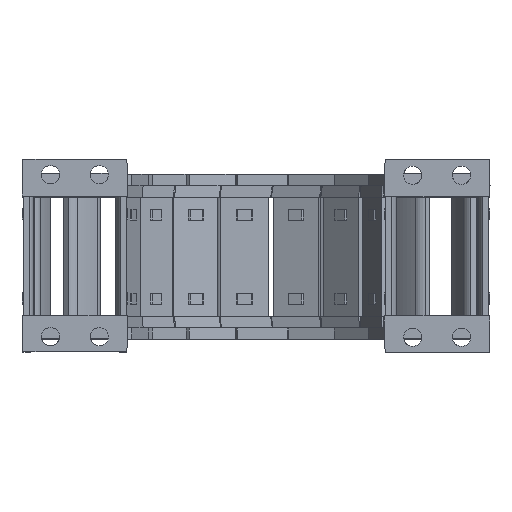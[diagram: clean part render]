
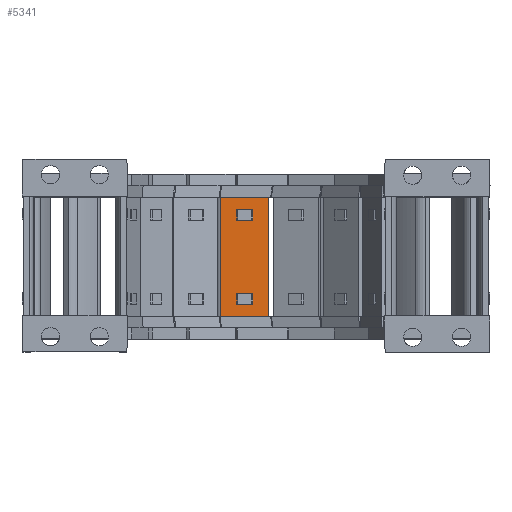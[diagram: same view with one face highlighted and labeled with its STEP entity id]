
A CAD part, top view. The second image highlights one B-rep face of the part: STEP entity #5341.
In plain terms, the highlighted planar face has unit normal (0.035, 0, 0.999).
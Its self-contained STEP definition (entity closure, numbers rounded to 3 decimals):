
#293=FACE_BOUND('',#15295,.T.);
#294=FACE_BOUND('',#15296,.T.);
#295=FACE_BOUND('',#15297,.T.);
#5341=ADVANCED_FACE('',(#293,#294,#295),#8414,.F.);
#8414=PLANE('',#76721);
#15295=EDGE_LOOP('',(#41093,#41094,#41095,#41096));
#15296=EDGE_LOOP('',(#41097,#41098,#41099,#41100));
#15297=EDGE_LOOP('',(#41101,#41102,#41103,#41104));
#21407=LINE('',#117715,#27585);
#21409=LINE('',#117719,#27587);
#21411=LINE('',#117723,#27589);
#21412=LINE('',#117725,#27590);
#21419=LINE('',#117740,#27597);
#21421=LINE('',#117744,#27599);
#21423=LINE('',#117748,#27601);
#21424=LINE('',#117750,#27602);
#21425=LINE('',#117752,#27603);
#21426=LINE('',#117755,#27604);
#21427=LINE('',#117757,#27605);
#21428=LINE('',#117759,#27606);
#27585=VECTOR('',#90400,1.);
#27587=VECTOR('',#90404,1.);
#27589=VECTOR('',#90408,1.);
#27590=VECTOR('',#90411,1.);
#27597=VECTOR('',#90422,1.);
#27599=VECTOR('',#90426,1.);
#27601=VECTOR('',#90430,1.);
#27602=VECTOR('',#90433,1.);
#27603=VECTOR('',#90436,1.);
#27604=VECTOR('',#90437,1.);
#27605=VECTOR('',#90438,1.);
#27606=VECTOR('',#90439,1.);
#41093=ORIENTED_EDGE('',*,*,#65015,.F.);
#41094=ORIENTED_EDGE('',*,*,#65013,.F.);
#41095=ORIENTED_EDGE('',*,*,#65011,.T.);
#41096=ORIENTED_EDGE('',*,*,#65016,.T.);
#41097=ORIENTED_EDGE('',*,*,#65027,.F.);
#41098=ORIENTED_EDGE('',*,*,#65025,.T.);
#41099=ORIENTED_EDGE('',*,*,#65023,.T.);
#41100=ORIENTED_EDGE('',*,*,#65028,.F.);
#41101=ORIENTED_EDGE('',*,*,#65029,.F.);
#41102=ORIENTED_EDGE('',*,*,#65030,.F.);
#41103=ORIENTED_EDGE('',*,*,#65031,.T.);
#41104=ORIENTED_EDGE('',*,*,#65032,.T.);
#56103=VERTEX_POINT('',#117712);
#56104=VERTEX_POINT('',#117714);
#56105=VERTEX_POINT('',#117718);
#56106=VERTEX_POINT('',#117722);
#56111=VERTEX_POINT('',#117737);
#56112=VERTEX_POINT('',#117739);
#56113=VERTEX_POINT('',#117743);
#56114=VERTEX_POINT('',#117747);
#56115=VERTEX_POINT('',#117753);
#56116=VERTEX_POINT('',#117754);
#56117=VERTEX_POINT('',#117756);
#56118=VERTEX_POINT('',#117758);
#65011=EDGE_CURVE('',#56103,#56104,#21407,.T.);
#65013=EDGE_CURVE('',#56103,#56105,#21409,.T.);
#65015=EDGE_CURVE('',#56105,#56106,#21411,.T.);
#65016=EDGE_CURVE('',#56104,#56106,#21412,.T.);
#65023=EDGE_CURVE('',#56111,#56112,#21419,.T.);
#65025=EDGE_CURVE('',#56113,#56111,#21421,.T.);
#65027=EDGE_CURVE('',#56113,#56114,#21423,.T.);
#65028=EDGE_CURVE('',#56114,#56112,#21424,.T.);
#65029=EDGE_CURVE('',#56115,#56116,#21425,.T.);
#65030=EDGE_CURVE('',#56117,#56115,#21426,.T.);
#65031=EDGE_CURVE('',#56117,#56118,#21427,.T.);
#65032=EDGE_CURVE('',#56118,#56116,#21428,.T.);
#76721=AXIS2_PLACEMENT_3D('',#117760,#90440,#90441);
#90400=DIRECTION('',(0.,1.,0.));
#90404=DIRECTION('',(0.999,0.,-0.035));
#90408=DIRECTION('',(0.,1.,0.));
#90411=DIRECTION('',(0.999,0.,-0.035));
#90422=DIRECTION('',(0.,-1.,0.));
#90426=DIRECTION('',(0.999,0.,-0.035));
#90430=DIRECTION('',(0.,-1.,0.));
#90433=DIRECTION('',(0.999,0.,-0.035));
#90436=DIRECTION('',(0.,1.,0.));
#90437=DIRECTION('',(-0.999,0.,0.035));
#90438=DIRECTION('',(0.,1.,0.));
#90439=DIRECTION('',(-0.999,0.,0.035));
#90440=DIRECTION('',(-0.035,0.,-0.999));
#90441=DIRECTION('',(-0.999,0.,0.035));
#117712=CARTESIAN_POINT('',(-65.615,-35.,-62.316));
#117714=CARTESIAN_POINT('',(-65.615,-31.5,-62.316));
#117715=CARTESIAN_POINT('',(-65.615,18.24,-62.316));
#117718=CARTESIAN_POINT('',(-60.267,-35.,-62.503));
#117719=CARTESIAN_POINT('',(-65.615,-35.,-62.316));
#117722=CARTESIAN_POINT('',(-60.267,-31.5,-62.503));
#117723=CARTESIAN_POINT('',(-60.267,-13.5,-62.503));
#117725=CARTESIAN_POINT('',(-65.615,-31.5,-62.316));
#117737=CARTESIAN_POINT('',(-60.267,-4.,-62.503));
#117739=CARTESIAN_POINT('',(-60.267,-7.5,-62.503));
#117740=CARTESIAN_POINT('',(-60.267,-4.,-62.503));
#117743=CARTESIAN_POINT('',(-65.615,-4.,-62.316));
#117744=CARTESIAN_POINT('',(-65.615,-4.,-62.316));
#117747=CARTESIAN_POINT('',(-65.615,-7.5,-62.316));
#117748=CARTESIAN_POINT('',(-65.615,-4.,-62.316));
#117750=CARTESIAN_POINT('',(-65.615,-7.5,-62.316));
#117752=CARTESIAN_POINT('',(-70.836,-25.26,-62.134));
#117753=CARTESIAN_POINT('',(-70.836,-39.,-62.134));
#117754=CARTESIAN_POINT('',(-70.836,0.,-62.134));
#117755=CARTESIAN_POINT('',(-73.083,-39.,-62.056));
#117756=CARTESIAN_POINT('',(-55.046,-39.,-62.685));
#117757=CARTESIAN_POINT('',(-55.046,-25.5,-62.685));
#117758=CARTESIAN_POINT('',(-55.046,0.,-62.685));
#117759=CARTESIAN_POINT('',(-55.046,0.,-62.685));
#117760=CARTESIAN_POINT('',(-52.887,31.74,-62.761));
